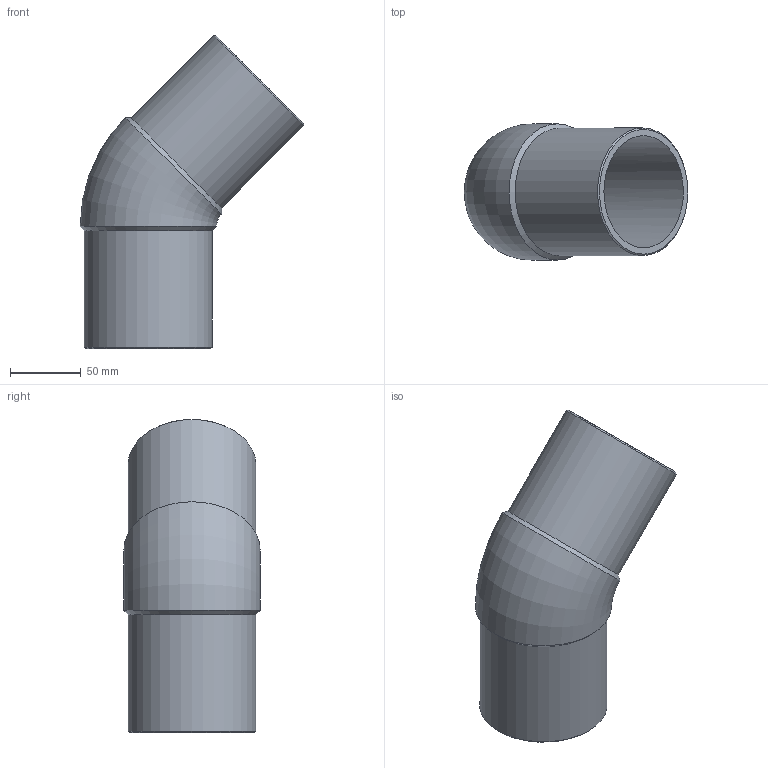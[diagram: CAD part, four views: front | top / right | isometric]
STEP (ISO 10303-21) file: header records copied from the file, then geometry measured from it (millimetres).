
FILE_DESCRIPTION(/* description */ ('Unknown'),/* implementation_level */ '2;1');
FILE_NAME(/* name */ 'G4P090B',/* time_stamp */ '2022-01-21T14:56:18+01:00',/* author */ ('Unknown'),/* organization */ ('Unknown'),/* preprocessor_version */ 'ST-DEVELOPER v18.1',/* originating_system */ 'Solid Edge',/* authorisation */ 'Unknown');
FILE_SCHEMA (('AUTOMOTIVE_DESIGN {1 0 10303 214 3 1 1}'));
Length unit declared in the file: millimetre
Products named in the file (1): G4P090B
Bounding box: 157.6 x 96 x 220.6 mm (x, y, z)
Volume: 360347.4 mm3; surface area: 120869.4 mm2
Topology: 1 solids, 1 shells, 12 faces, 30 edges, 20 vertices
Faces by surface type: cone 4, cylinder 4, plane 2, torus 2
Full cylindrical faces by diameter (mm): 79.2 x2, 90 x2
Entity records: 326 total; most frequent: CARTESIAN_POINT 60, DIRECTION 52, ORIENTED_EDGE 34, AXIS2_PLACEMENT_3D 26, EDGE_LOOP 23, FACE_BOUND 23, EDGE_CURVE 17, VERTEX_POINT 16
